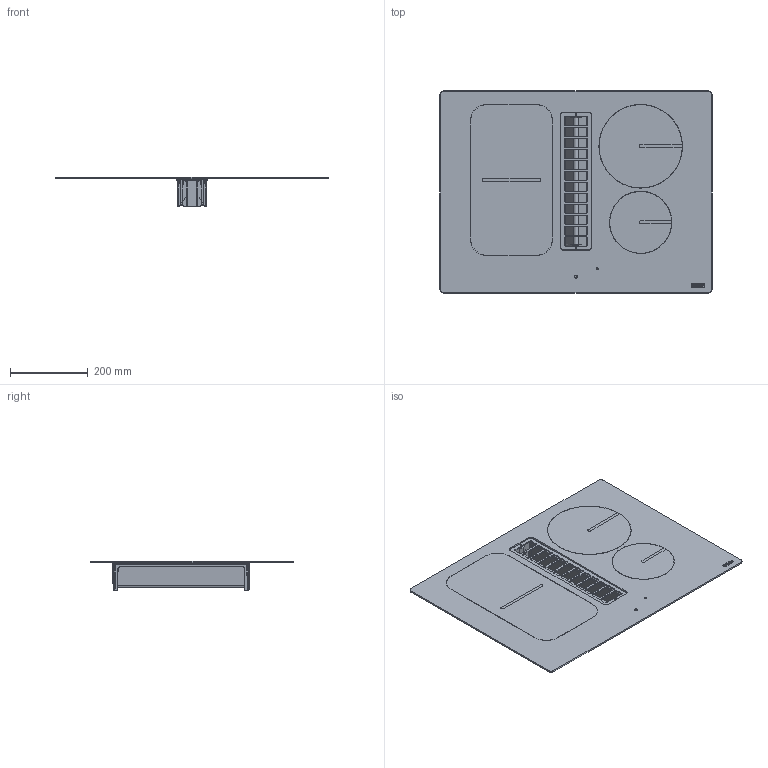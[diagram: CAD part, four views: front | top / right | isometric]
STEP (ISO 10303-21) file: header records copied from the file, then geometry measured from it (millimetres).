
FILE_DESCRIPTION(/* description */ (''),/* implementation_level */ '2;1');
FILE_NAME(/* name */ '3D001_Hob-Extractors_Smart_FSM-709-HI',/* time_stamp */ '2024-01-24T11:41:47+01:00',/* author */ (''),/* organization */ (''),/* preprocessor_version */ 'ST-DEVELOPER v19.2',/* originating_system */ 'Rhino 8.3',/* authorisation */ '');
FILE_SCHEMA (('CONFIG_CONTROL_DESIGN'));
Length unit declared in the file: millimetre
Products named in the file (1): Document
Bounding box: 700 x 520 x 75.84 mm (x, y, z)
Volume: 1659114.8 mm3; surface area: 926557.5 mm2
Topology: 4 solids, 239 shells, 1072 faces, 3217 edges, 2396 vertices
Faces by surface type: plane 468, cylinder 388, bspline 216
Entity records: 53973 total; most frequent: CARTESIAN_POINT 30754, ORIENTED_EDGE 5222, EDGE_CURVE 3217, B_SPLINE_CURVE_WITH_KNOTS 2540, VERTEX_POINT 2396, DIRECTION 2216, AXIS2_PLACEMENT_3D 1536, EDGE_LOOP 1123
